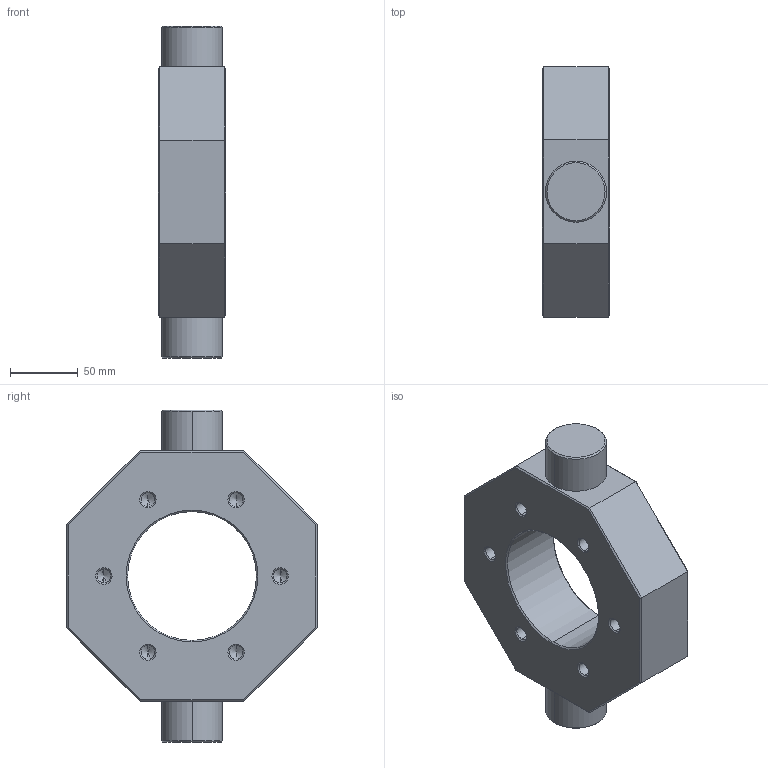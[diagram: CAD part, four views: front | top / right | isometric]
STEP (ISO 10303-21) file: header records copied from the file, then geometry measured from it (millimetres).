
FILE_DESCRIPTION (( 'STEP AP214' ), '1' );
FILE_NAME ('LB-KA-95.STEP', '2025-04-08T13:19:46', ( '' ), ( '' ), 'SwSTEP 2.0', 'SolidWorks 2023', '' );
FILE_SCHEMA (( 'AUTOMOTIVE_DESIGN' ));
Length unit declared in the file: millimetre
Products named in the file (1): LB-KA-95
Bounding box: 50 x 185 x 245 mm (x, y, z)
Volume: 1113615.6 mm3; surface area: 108680.7 mm2
Topology: 1 solids, 1 shells, 114 faces, 258 edges, 136 vertices
Faces by surface type: cone 56, cylinder 30, plane 28
Entity records: 2977 total; most frequent: DIRECTION 556, CARTESIAN_POINT 485, ORIENTED_EDGE 468, EDGE_CURVE 234, AXIS2_PLACEMENT_3D 207, VECTOR 142, LINE 142, VERTEX_POINT 136
